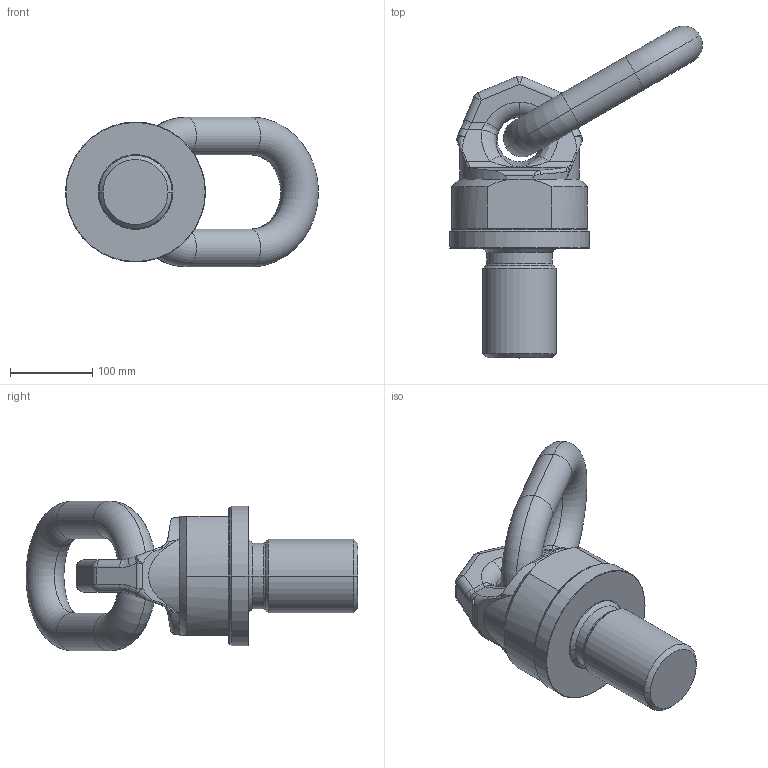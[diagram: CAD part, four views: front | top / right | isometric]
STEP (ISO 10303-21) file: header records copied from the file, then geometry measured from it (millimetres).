
FILE_DESCRIPTION((''),'2;1');
FILE_NAME('001-M33276-P96-60_ASM','2011-05-11T',('Roland.Jakubetz'),(''),'PRO/ENGINEER BY PARAMETRIC TECHNOLOGY CORPORATION, 2010140','PRO/ENGINEER BY PARAMETRIC TECHNOLOGY CORPORATION, 2010140','');
FILE_SCHEMA(('CONFIG_CONTROL_DESIGN'));
Length unit declared in the file: millimetre
Products named in the file (4): 001-M33276-P96; 001-M31356-P91; 001-M31356-P92; 001-M33276-P96-60_ASM
Assembly tree (3 placements, depth 2):
  001-M33276-P96-60_ASM
    001-M33276-P96
    001-M31356-P91
    001-M31356-P92
Bounding box: 307.19 x 403.1 x 182 mm (x, y, z)
Volume: 4281210.8 mm3; surface area: 279770.7 mm2
Topology: 3 solids, 3 shells, 726 faces, 1966 edges, 1271 vertices
Faces by surface type: plane 587, cylinder 50, bspline 42, cone 20, torus 14, sphere 13
Entity records: 24075 total; most frequent: CARTESIAN_POINT 6000, ORIENTED_EDGE 3932, DIRECTION 3376, EDGE_CURVE 1966, VECTOR 1706, LINE 1706, VERTEX_POINT 1271, AXIS2_PLACEMENT_3D 835
